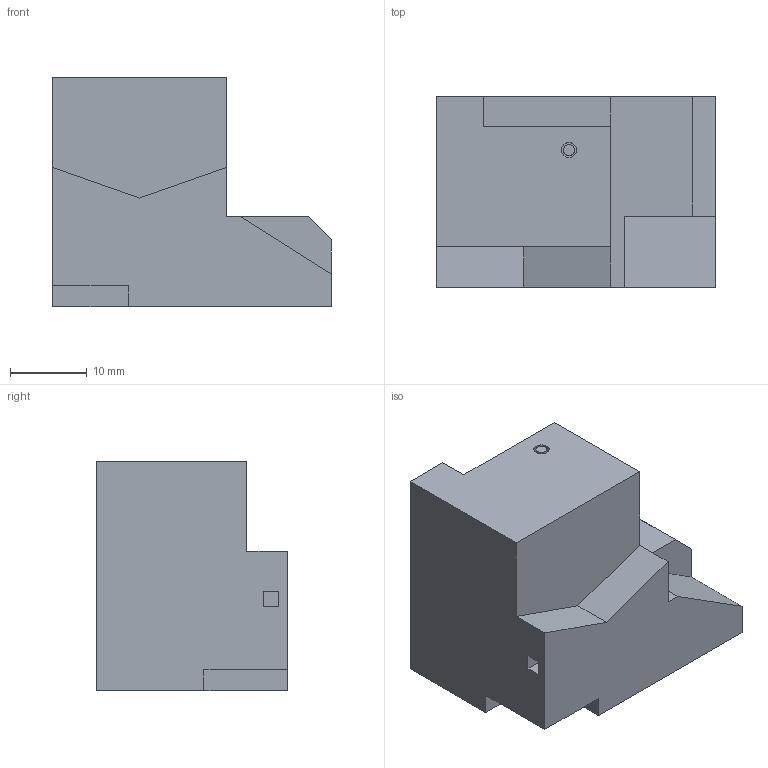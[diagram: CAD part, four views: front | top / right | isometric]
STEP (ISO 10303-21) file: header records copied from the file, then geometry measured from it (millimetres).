
FILE_DESCRIPTION(('Open CASCADE Model'),'2;1');
FILE_NAME('Open CASCADE Shape Model','2021-05-03T16:53:52',('Author'),( 'Open CASCADE'),'Open CASCADE STEP processor 7.4','Open CASCADE 7.4' ,'Unknown');
FILE_SCHEMA(('AUTOMOTIVE_DESIGN { 1 0 10303 214 1 1 1 1 }'));
Length unit declared in the file: millimetre
Products named in the file (1): Open CASCADE STEP translator 7.4 579
Bounding box: 36.23 x 24.75 x 29.78 mm (x, y, z)
Volume: 17698.6 mm3; surface area: 5135.9 mm2
Topology: 1 solids, 1 shells, 33 faces, 78 edges, 52 vertices
Faces by surface type: plane 29, cylinder 4
Full cylindrical faces by diameter (mm): 1.302 x1, 1.425 x1, 2 x2
Entity records: 1976 total; most frequent: CARTESIAN_POINT 344, DIRECTION 306, LINE 218, VECTOR 218, ORIENTED_EDGE 156, PCURVE 156, DEFINITIONAL_REPRESENTATION 156, EDGE_CURVE 78
